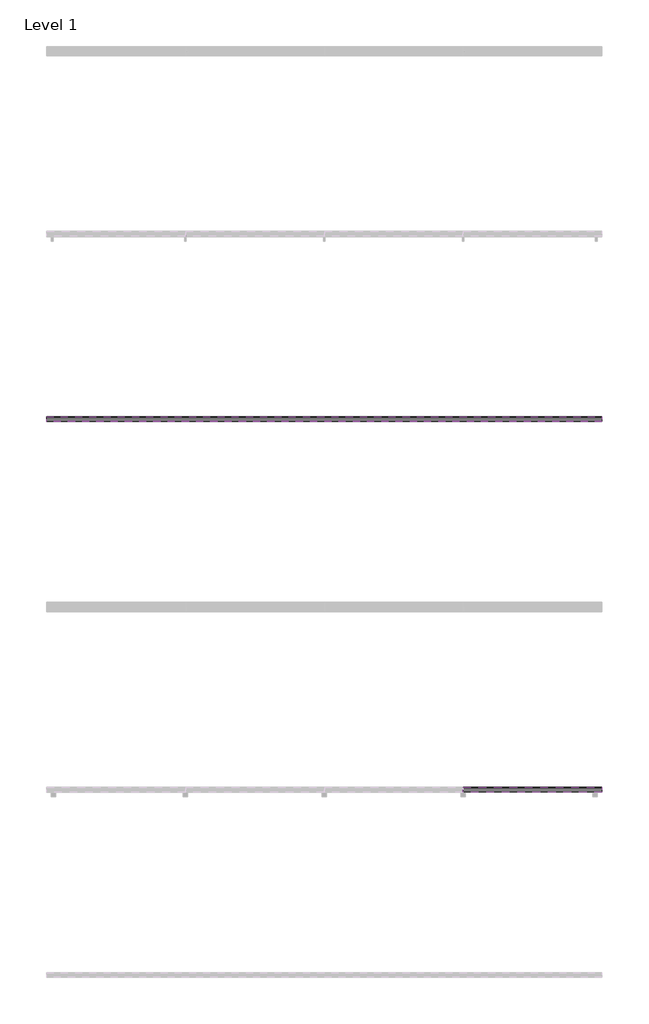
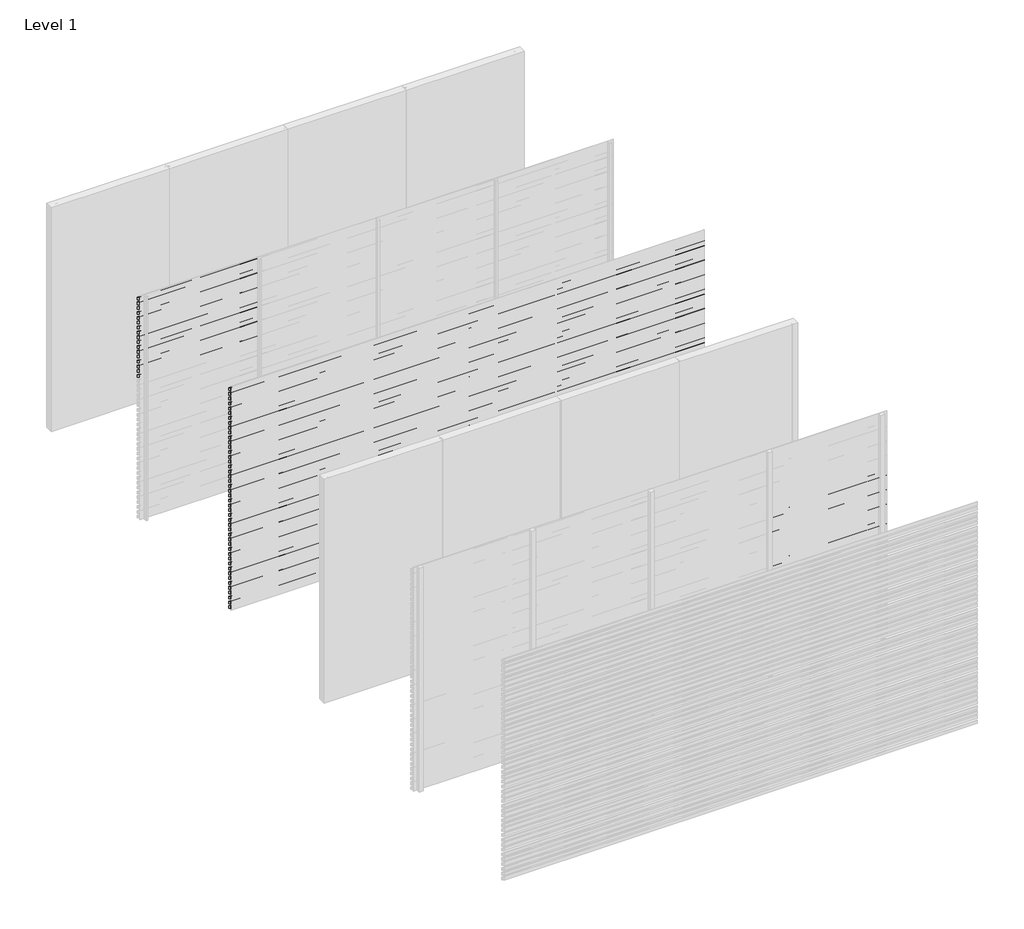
# One storey, part 6 of 10: 97 proxies.
"""IFC4 building model written with IfcOpenShell, lengths in millimetres."""

from ifc_helpers import new_model, si_unit, frame, origin, place, context, project, spatial, polyline, outline, extrude, element, save

model = new_model("IFC4")

# Units and contexts
model_context = context("Model", 3, world=origin())
ifc_project = project(units=[si_unit("LENGTHUNIT", "METRE", prefix="MILLI")], contexts=[model_context])

# Site, building, storey
site = spatial("IfcSite", under=ifc_project)
building = spatial("IfcBuilding", under=site)
storey = spatial("IfcBuildingStorey", under=building, Name="Level 1", Elevation=0.0)

# Proxies
placement = place(None, origin())
element("IfcBuildingElementProxy", 1, Name="Wall Sweeps", at=placement, inside=storey, context=model_context, shape_type="SweptSolid", body=[
    extrude(outline(polyline([(-5995.0, 2990.0), (-5995.0, 2981.2901632), (-5946.0, 2953.0), (-5946.0, 2918.0), (-5997.0, 2947.4448637), (-5997.0, 2990.0), (-5995.0, 2990.0)])), frame((0.0, 0.0, 0.0), z_axis=(1.0, 0.0, 0.0), x_axis=(0.0, 1.0, 0.0)), (0.0, 0.0, 1.0), 1500.0),
])
element("IfcBuildingElementProxy", 2, Name="Wall Sweeps", at=placement, inside=storey, context=model_context, shape_type="SweptSolid", body=[
    extrude(outline(polyline([(-5995.0, 2925.0), (-5995.0, 2916.2901632), (-5946.0, 2888.0), (-5946.0, 2853.0), (-5997.0, 2882.4448637), (-5997.0, 2925.0), (-5995.0, 2925.0)])), frame((0.0, 0.0, 0.0), z_axis=(1.0, 0.0, 0.0), x_axis=(0.0, 1.0, 0.0)), (0.0, 0.0, 1.0), 1500.0),
])
element("IfcBuildingElementProxy", 3, Name="Wall Sweeps", at=placement, inside=storey, context=model_context, shape_type="SweptSolid", body=[
    extrude(outline(polyline([(-5995.0, 2860.0), (-5995.0, 2851.2901632), (-5946.0, 2823.0), (-5946.0, 2788.0), (-5997.0, 2817.4448637), (-5997.0, 2860.0), (-5995.0, 2860.0)])), frame((0.0, 0.0, 0.0), z_axis=(1.0, 0.0, 0.0), x_axis=(0.0, 1.0, 0.0)), (0.0, 0.0, 1.0), 1500.0),
])
element("IfcBuildingElementProxy", 4, Name="Wall Sweeps", at=placement, inside=storey, context=model_context, shape_type="SweptSolid", body=[
    extrude(outline(polyline([(-5995.0, 2795.0), (-5995.0, 2786.2901632), (-5946.0, 2758.0), (-5946.0, 2723.0), (-5997.0, 2752.4448637), (-5997.0, 2795.0), (-5995.0, 2795.0)])), frame((0.0, 0.0, 0.0), z_axis=(1.0, 0.0, 0.0), x_axis=(0.0, 1.0, 0.0)), (0.0, 0.0, 1.0), 1500.0),
])
element("IfcBuildingElementProxy", 5, Name="Wall Sweeps", at=placement, inside=storey, context=model_context, shape_type="SweptSolid", body=[
    extrude(outline(polyline([(-5995.0, 2730.0), (-5995.0, 2721.2901632), (-5946.0, 2693.0), (-5946.0, 2658.0), (-5997.0, 2687.4448637), (-5997.0, 2730.0), (-5995.0, 2730.0)])), frame((0.0, 0.0, 0.0), z_axis=(1.0, 0.0, 0.0), x_axis=(0.0, 1.0, 0.0)), (0.0, 0.0, 1.0), 1500.0),
])
element("IfcBuildingElementProxy", 6, Name="Wall Sweeps", at=placement, inside=storey, context=model_context, shape_type="SweptSolid", body=[
    extrude(outline(polyline([(-5995.0, 2665.0), (-5995.0, 2656.2901632), (-5946.0, 2628.0), (-5946.0, 2593.0), (-5997.0, 2622.4448637), (-5997.0, 2665.0), (-5995.0, 2665.0)])), frame((0.0, 0.0, 0.0), z_axis=(1.0, 0.0, 0.0), x_axis=(0.0, 1.0, 0.0)), (0.0, 0.0, 1.0), 1500.0),
])
element("IfcBuildingElementProxy", 7, Name="Wall Sweeps", at=placement, inside=storey, context=model_context, shape_type="SweptSolid", body=[
    extrude(outline(polyline([(-5995.0, 2600.0), (-5995.0, 2591.2901632), (-5946.0, 2563.0), (-5946.0, 2528.0), (-5997.0, 2557.4448637), (-5997.0, 2600.0), (-5995.0, 2600.0)])), frame((0.0, 0.0, 0.0), z_axis=(1.0, 0.0, 0.0), x_axis=(0.0, 1.0, 0.0)), (0.0, 0.0, 1.0), 1500.0),
])
element("IfcBuildingElementProxy", 8, Name="Wall Sweeps", at=placement, inside=storey, context=model_context, shape_type="SweptSolid", body=[
    extrude(outline(polyline([(-5995.0, 2535.0), (-5995.0, 2526.2901632), (-5946.0, 2498.0), (-5946.0, 2463.0), (-5997.0, 2492.4448637), (-5997.0, 2535.0), (-5995.0, 2535.0)])), frame((0.0, 0.0, 0.0), z_axis=(1.0, 0.0, 0.0), x_axis=(0.0, 1.0, 0.0)), (0.0, 0.0, 1.0), 1500.0),
])
element("IfcBuildingElementProxy", 9, Name="Wall Sweeps", at=placement, inside=storey, context=model_context, shape_type="SweptSolid", body=[
    extrude(outline(polyline([(-5995.0, 2470.0), (-5995.0, 2461.2901632), (-5946.0, 2433.0), (-5946.0, 2398.0), (-5997.0, 2427.4448637), (-5997.0, 2470.0), (-5995.0, 2470.0)])), frame((0.0, 0.0, 0.0), z_axis=(1.0, 0.0, 0.0), x_axis=(0.0, 1.0, 0.0)), (0.0, 0.0, 1.0), 1500.0),
])
element("IfcBuildingElementProxy", 10, Name="Wall Sweeps", at=placement, inside=storey, context=model_context, shape_type="SweptSolid", body=[
    extrude(outline(polyline([(-5995.0, 2405.0), (-5995.0, 2396.2901632), (-5946.0, 2368.0), (-5946.0, 2333.0), (-5997.0, 2362.4448637), (-5997.0, 2405.0), (-5995.0, 2405.0)])), frame((0.0, 0.0, 0.0), z_axis=(1.0, 0.0, 0.0), x_axis=(0.0, 1.0, 0.0)), (0.0, 0.0, 1.0), 1500.0),
])
element("IfcBuildingElementProxy", 11, Name="Wall Sweeps", at=placement, inside=storey, context=model_context, shape_type="SweptSolid", body=[
    extrude(outline(polyline([(-5995.0, 2340.0), (-5995.0, 2331.2901632), (-5946.0, 2303.0), (-5946.0, 2268.0), (-5997.0, 2297.4448637), (-5997.0, 2340.0), (-5995.0, 2340.0)])), frame((0.0, 0.0, 0.0), z_axis=(1.0, 0.0, 0.0), x_axis=(0.0, 1.0, 0.0)), (0.0, 0.0, 1.0), 1500.0),
])
element("IfcBuildingElementProxy", 12, Name="Wall Sweeps", at=placement, inside=storey, context=model_context, shape_type="SweptSolid", body=[
    extrude(outline(polyline([(-5995.0, 2275.0), (-5995.0, 2266.2901632), (-5946.0, 2238.0), (-5946.0, 2203.0), (-5997.0, 2232.4448637), (-5997.0, 2275.0), (-5995.0, 2275.0)])), frame((0.0, 0.0, 0.0), z_axis=(1.0, 0.0, 0.0), x_axis=(0.0, 1.0, 0.0)), (0.0, 0.0, 1.0), 1500.0),
])
element("IfcBuildingElementProxy", 13, Name="Wall Sweeps", at=placement, inside=storey, context=model_context, shape_type="SweptSolid", body=[
    extrude(outline(polyline([(-5995.0, 2210.0), (-5995.0, 2201.2901632), (-5946.0, 2173.0), (-5946.0, 2138.0), (-5997.0, 2167.4448637), (-5997.0, 2210.0), (-5995.0, 2210.0)])), frame((0.0, 0.0, 0.0), z_axis=(1.0, 0.0, 0.0), x_axis=(0.0, 1.0, 0.0)), (0.0, 0.0, 1.0), 1500.0),
])
element("IfcBuildingElementProxy", 14, Name="Wall Sweeps", at=placement, inside=storey, context=model_context, shape_type="SweptSolid", body=[
    extrude(outline(polyline([(-5995.0, 2145.0), (-5995.0, 2136.2901632), (-5946.0, 2108.0), (-5946.0, 2073.0), (-5997.0, 2102.4448637), (-5997.0, 2145.0), (-5995.0, 2145.0)])), frame((0.0, 0.0, 0.0), z_axis=(1.0, 0.0, 0.0), x_axis=(0.0, 1.0, 0.0)), (0.0, 0.0, 1.0), 1500.0),
])
element("IfcBuildingElementProxy", 15, Name="Wall Sweeps", at=placement, inside=storey, context=model_context, shape_type="SweptSolid", body=[
    extrude(outline(polyline([(-5995.0, 2080.0), (-5995.0, 2071.2901632), (-5946.0, 2043.0), (-5946.0, 2008.0), (-5997.0, 2037.4448637), (-5997.0, 2080.0), (-5995.0, 2080.0)])), frame((0.0, 0.0, 0.0), z_axis=(1.0, 0.0, 0.0), x_axis=(0.0, 1.0, 0.0)), (0.0, 0.0, 1.0), 1500.0),
])
element("IfcBuildingElementProxy", 16, Name="Wall Sweeps", at=placement, inside=storey, context=model_context, shape_type="SweptSolid", body=[
    extrude(outline(polyline([(-5995.0, 2015.0), (-5995.0, 2006.2901632), (-5946.0, 1978.0), (-5946.0, 1943.0), (-5997.0, 1972.4448637), (-5997.0, 2015.0), (-5995.0, 2015.0)])), frame((0.0, 0.0, 0.0), z_axis=(1.0, 0.0, 0.0), x_axis=(0.0, 1.0, 0.0)), (0.0, 0.0, 1.0), 1500.0),
])
element("IfcBuildingElementProxy", 17, Name="Wall Sweeps", at=placement, inside=storey, context=model_context, shape_type="SweptSolid", body=[
    extrude(outline(polyline([(-5995.0, 1950.0), (-5995.0, 1941.2901632), (-5946.0, 1913.0), (-5946.0, 1878.0), (-5997.0, 1907.4448637), (-5997.0, 1950.0), (-5995.0, 1950.0)])), frame((0.0, 0.0, 0.0), z_axis=(1.0, 0.0, 0.0), x_axis=(0.0, 1.0, 0.0)), (0.0, 0.0, 1.0), 1500.0),
])
element("IfcBuildingElementProxy", 18, Name="Wall Sweeps", at=placement, inside=storey, context=model_context, shape_type="SweptSolid", body=[
    extrude(outline(polyline([(-7995.0, 2990.0), (-7995.0, 2981.2901632), (-7946.0, 2953.0), (-7946.0, 2918.0), (-7997.0, 2947.4448637), (-7997.0, 2990.0), (-7995.0, 2990.0)])), frame((0.0, 0.0, 0.0), z_axis=(1.0, 0.0, 0.0), x_axis=(0.0, 1.0, 0.0)), (0.0, 0.0, 1.0), 6000.0),
])
element("IfcBuildingElementProxy", 19, Name="Wall Sweeps", at=placement, inside=storey, context=model_context, shape_type="SweptSolid", body=[
    extrude(outline(polyline([(-7995.0, 2925.0), (-7995.0, 2916.2901632), (-7946.0, 2888.0), (-7946.0, 2853.0), (-7997.0, 2882.4448637), (-7997.0, 2925.0), (-7995.0, 2925.0)])), frame((0.0, 0.0, 0.0), z_axis=(1.0, 0.0, 0.0), x_axis=(0.0, 1.0, 0.0)), (0.0, 0.0, 1.0), 6000.0),
])
element("IfcBuildingElementProxy", 20, Name="Wall Sweeps", at=placement, inside=storey, context=model_context, shape_type="SweptSolid", body=[
    extrude(outline(polyline([(-7995.0, 2860.0), (-7995.0, 2851.2901632), (-7946.0, 2823.0), (-7946.0, 2788.0), (-7997.0, 2817.4448637), (-7997.0, 2860.0), (-7995.0, 2860.0)])), frame((0.0, 0.0, 0.0), z_axis=(1.0, 0.0, 0.0), x_axis=(0.0, 1.0, 0.0)), (0.0, 0.0, 1.0), 6000.0),
])
element("IfcBuildingElementProxy", 21, Name="Wall Sweeps", at=placement, inside=storey, context=model_context, shape_type="SweptSolid", body=[
    extrude(outline(polyline([(-7995.0, 2795.0), (-7995.0, 2786.2901632), (-7946.0, 2758.0), (-7946.0, 2723.0), (-7997.0, 2752.4448637), (-7997.0, 2795.0), (-7995.0, 2795.0)])), frame((0.0, 0.0, 0.0), z_axis=(1.0, 0.0, 0.0), x_axis=(0.0, 1.0, 0.0)), (0.0, 0.0, 1.0), 6000.0),
])
element("IfcBuildingElementProxy", 22, Name="Wall Sweeps", at=placement, inside=storey, context=model_context, shape_type="SweptSolid", body=[
    extrude(outline(polyline([(-7995.0, 2730.0), (-7995.0, 2721.2901632), (-7946.0, 2693.0), (-7946.0, 2658.0), (-7997.0, 2687.4448637), (-7997.0, 2730.0), (-7995.0, 2730.0)])), frame((0.0, 0.0, 0.0), z_axis=(1.0, 0.0, 0.0), x_axis=(0.0, 1.0, 0.0)), (0.0, 0.0, 1.0), 6000.0),
])
element("IfcBuildingElementProxy", 23, Name="Wall Sweeps", at=placement, inside=storey, context=model_context, shape_type="SweptSolid", body=[
    extrude(outline(polyline([(-7995.0, 2665.0), (-7995.0, 2656.2901632), (-7946.0, 2628.0), (-7946.0, 2593.0), (-7997.0, 2622.4448637), (-7997.0, 2665.0), (-7995.0, 2665.0)])), frame((0.0, 0.0, 0.0), z_axis=(1.0, 0.0, 0.0), x_axis=(0.0, 1.0, 0.0)), (0.0, 0.0, 1.0), 6000.0),
])
element("IfcBuildingElementProxy", 24, Name="Wall Sweeps", at=placement, inside=storey, context=model_context, shape_type="SweptSolid", body=[
    extrude(outline(polyline([(-7995.0, 2600.0), (-7995.0, 2591.2901632), (-7946.0, 2563.0), (-7946.0, 2528.0), (-7997.0, 2557.4448637), (-7997.0, 2600.0), (-7995.0, 2600.0)])), frame((0.0, 0.0, 0.0), z_axis=(1.0, 0.0, 0.0), x_axis=(0.0, 1.0, 0.0)), (0.0, 0.0, 1.0), 6000.0),
])
element("IfcBuildingElementProxy", 25, Name="Wall Sweeps", at=placement, inside=storey, context=model_context, shape_type="SweptSolid", body=[
    extrude(outline(polyline([(-7995.0, 2535.0), (-7995.0, 2526.2901632), (-7946.0, 2498.0), (-7946.0, 2463.0), (-7997.0, 2492.4448637), (-7997.0, 2535.0), (-7995.0, 2535.0)])), frame((0.0, 0.0, 0.0), z_axis=(1.0, 0.0, 0.0), x_axis=(0.0, 1.0, 0.0)), (0.0, 0.0, 1.0), 6000.0),
])
element("IfcBuildingElementProxy", 26, Name="Wall Sweeps", at=placement, inside=storey, context=model_context, shape_type="SweptSolid", body=[
    extrude(outline(polyline([(-7995.0, 2470.0), (-7995.0, 2461.2901632), (-7946.0, 2433.0), (-7946.0, 2398.0), (-7997.0, 2427.4448637), (-7997.0, 2470.0), (-7995.0, 2470.0)])), frame((0.0, 0.0, 0.0), z_axis=(1.0, 0.0, 0.0), x_axis=(0.0, 1.0, 0.0)), (0.0, 0.0, 1.0), 6000.0),
])
element("IfcBuildingElementProxy", 27, Name="Wall Sweeps", at=placement, inside=storey, context=model_context, shape_type="SweptSolid", body=[
    extrude(outline(polyline([(-7995.0, 2405.0), (-7995.0, 2396.2901632), (-7946.0, 2368.0), (-7946.0, 2333.0), (-7997.0, 2362.4448637), (-7997.0, 2405.0), (-7995.0, 2405.0)])), frame((0.0, 0.0, 0.0), z_axis=(1.0, 0.0, 0.0), x_axis=(0.0, 1.0, 0.0)), (0.0, 0.0, 1.0), 6000.0),
])
element("IfcBuildingElementProxy", 28, Name="Wall Sweeps", at=placement, inside=storey, context=model_context, shape_type="SweptSolid", body=[
    extrude(outline(polyline([(-7995.0, 2340.0), (-7995.0, 2331.2901632), (-7946.0, 2303.0), (-7946.0, 2268.0), (-7997.0, 2297.4448637), (-7997.0, 2340.0), (-7995.0, 2340.0)])), frame((0.0, 0.0, 0.0), z_axis=(1.0, 0.0, 0.0), x_axis=(0.0, 1.0, 0.0)), (0.0, 0.0, 1.0), 6000.0),
])
element("IfcBuildingElementProxy", 29, Name="Wall Sweeps", at=placement, inside=storey, context=model_context, shape_type="SweptSolid", body=[
    extrude(outline(polyline([(-7995.0, 2275.0), (-7995.0, 2266.2901632), (-7946.0, 2238.0), (-7946.0, 2203.0), (-7997.0, 2232.4448637), (-7997.0, 2275.0), (-7995.0, 2275.0)])), frame((0.0, 0.0, 0.0), z_axis=(1.0, 0.0, 0.0), x_axis=(0.0, 1.0, 0.0)), (0.0, 0.0, 1.0), 6000.0),
])
element("IfcBuildingElementProxy", 30, Name="Wall Sweeps", at=placement, inside=storey, context=model_context, shape_type="SweptSolid", body=[
    extrude(outline(polyline([(-7995.0, 2210.0), (-7995.0, 2201.2901632), (-7946.0, 2173.0), (-7946.0, 2138.0), (-7997.0, 2167.4448637), (-7997.0, 2210.0), (-7995.0, 2210.0)])), frame((0.0, 0.0, 0.0), z_axis=(1.0, 0.0, 0.0), x_axis=(0.0, 1.0, 0.0)), (0.0, 0.0, 1.0), 6000.0),
])
element("IfcBuildingElementProxy", 31, Name="Wall Sweeps", at=placement, inside=storey, context=model_context, shape_type="SweptSolid", body=[
    extrude(outline(polyline([(-7995.0, 2145.0), (-7995.0, 2136.2901632), (-7946.0, 2108.0), (-7946.0, 2073.0), (-7997.0, 2102.4448637), (-7997.0, 2145.0), (-7995.0, 2145.0)])), frame((0.0, 0.0, 0.0), z_axis=(1.0, 0.0, 0.0), x_axis=(0.0, 1.0, 0.0)), (0.0, 0.0, 1.0), 6000.0),
])
element("IfcBuildingElementProxy", 32, Name="Wall Sweeps", at=placement, inside=storey, context=model_context, shape_type="SweptSolid", body=[
    extrude(outline(polyline([(-7995.0, 2080.0), (-7995.0, 2071.2901632), (-7946.0, 2043.0), (-7946.0, 2008.0), (-7997.0, 2037.4448637), (-7997.0, 2080.0), (-7995.0, 2080.0)])), frame((0.0, 0.0, 0.0), z_axis=(1.0, 0.0, 0.0), x_axis=(0.0, 1.0, 0.0)), (0.0, 0.0, 1.0), 6000.0),
])
element("IfcBuildingElementProxy", 33, Name="Wall Sweeps", at=placement, inside=storey, context=model_context, shape_type="SweptSolid", body=[
    extrude(outline(polyline([(-7995.0, 2015.0), (-7995.0, 2006.2901632), (-7946.0, 1978.0), (-7946.0, 1943.0), (-7997.0, 1972.4448637), (-7997.0, 2015.0), (-7995.0, 2015.0)])), frame((0.0, 0.0, 0.0), z_axis=(1.0, 0.0, 0.0), x_axis=(0.0, 1.0, 0.0)), (0.0, 0.0, 1.0), 6000.0),
])
element("IfcBuildingElementProxy", 34, Name="Wall Sweeps", at=placement, inside=storey, context=model_context, shape_type="SweptSolid", body=[
    extrude(outline(polyline([(-7995.0, 1950.0), (-7995.0, 1941.2901632), (-7946.0, 1913.0), (-7946.0, 1878.0), (-7997.0, 1907.4448637), (-7997.0, 1950.0), (-7995.0, 1950.0)])), frame((0.0, 0.0, 0.0), z_axis=(1.0, 0.0, 0.0), x_axis=(0.0, 1.0, 0.0)), (0.0, 0.0, 1.0), 6000.0),
])
element("IfcBuildingElementProxy", 35, Name="Wall Sweeps", at=placement, inside=storey, context=model_context, shape_type="SweptSolid", body=[
    extrude(outline(polyline([(-7995.0, 1885.0), (-7995.0, 1876.2901632), (-7946.0, 1848.0), (-7946.0, 1813.0), (-7997.0, 1842.4448637), (-7997.0, 1885.0), (-7995.0, 1885.0)])), frame((0.0, 0.0, 0.0), z_axis=(1.0, 0.0, 0.0), x_axis=(0.0, 1.0, 0.0)), (0.0, 0.0, 1.0), 6000.0),
])
element("IfcBuildingElementProxy", 36, Name="Wall Sweeps", at=placement, inside=storey, context=model_context, shape_type="SweptSolid", body=[
    extrude(outline(polyline([(-7995.0, 1820.0), (-7995.0, 1811.2901632), (-7946.0, 1783.0), (-7946.0, 1748.0), (-7997.0, 1777.4448637), (-7997.0, 1820.0), (-7995.0, 1820.0)])), frame((0.0, 0.0, 0.0), z_axis=(1.0, 0.0, 0.0), x_axis=(0.0, 1.0, 0.0)), (0.0, 0.0, 1.0), 6000.0),
])
element("IfcBuildingElementProxy", 37, Name="Wall Sweeps", at=placement, inside=storey, context=model_context, shape_type="SweptSolid", body=[
    extrude(outline(polyline([(-7995.0, 1755.0), (-7995.0, 1746.2901632), (-7946.0, 1718.0), (-7946.0, 1683.0), (-7997.0, 1712.4448637), (-7997.0, 1755.0), (-7995.0, 1755.0)])), frame((0.0, 0.0, 0.0), z_axis=(1.0, 0.0, 0.0), x_axis=(0.0, 1.0, 0.0)), (0.0, 0.0, 1.0), 6000.0),
])
element("IfcBuildingElementProxy", 38, Name="Wall Sweeps", at=placement, inside=storey, context=model_context, shape_type="SweptSolid", body=[
    extrude(outline(polyline([(-7995.0, 1690.0), (-7995.0, 1681.2901632), (-7946.0, 1653.0), (-7946.0, 1618.0), (-7997.0, 1647.4448637), (-7997.0, 1690.0), (-7995.0, 1690.0)])), frame((0.0, 0.0, 0.0), z_axis=(1.0, 0.0, 0.0), x_axis=(0.0, 1.0, 0.0)), (0.0, 0.0, 1.0), 6000.0),
])
element("IfcBuildingElementProxy", 39, Name="Wall Sweeps", at=placement, inside=storey, context=model_context, shape_type="SweptSolid", body=[
    extrude(outline(polyline([(-7995.0, 1625.0), (-7995.0, 1616.2901632), (-7946.0, 1588.0), (-7946.0, 1553.0), (-7997.0, 1582.4448637), (-7997.0, 1625.0), (-7995.0, 1625.0)])), frame((0.0, 0.0, 0.0), z_axis=(1.0, 0.0, 0.0), x_axis=(0.0, 1.0, 0.0)), (0.0, 0.0, 1.0), 6000.0),
])
element("IfcBuildingElementProxy", 40, Name="Wall Sweeps", at=placement, inside=storey, context=model_context, shape_type="SweptSolid", body=[
    extrude(outline(polyline([(-7995.0, 1560.0), (-7995.0, 1551.2901632), (-7946.0, 1523.0), (-7946.0, 1488.0), (-7997.0, 1517.4448637), (-7997.0, 1560.0), (-7995.0, 1560.0)])), frame((0.0, 0.0, 0.0), z_axis=(1.0, 0.0, 0.0), x_axis=(0.0, 1.0, 0.0)), (0.0, 0.0, 1.0), 6000.0),
])
element("IfcBuildingElementProxy", 41, Name="Wall Sweeps", at=placement, inside=storey, context=model_context, shape_type="SweptSolid", body=[
    extrude(outline(polyline([(-7995.0, 1495.0), (-7995.0, 1486.2901632), (-7946.0, 1458.0), (-7946.0, 1423.0), (-7997.0, 1452.4448637), (-7997.0, 1495.0), (-7995.0, 1495.0)])), frame((0.0, 0.0, 0.0), z_axis=(1.0, 0.0, 0.0), x_axis=(0.0, 1.0, 0.0)), (0.0, 0.0, 1.0), 6000.0),
])
element("IfcBuildingElementProxy", 42, Name="Wall Sweeps", at=placement, inside=storey, context=model_context, shape_type="SweptSolid", body=[
    extrude(outline(polyline([(-7995.0, 1430.0), (-7995.0, 1421.2901632), (-7946.0, 1393.0), (-7946.0, 1358.0), (-7997.0, 1387.4448637), (-7997.0, 1430.0), (-7995.0, 1430.0)])), frame((0.0, 0.0, 0.0), z_axis=(1.0, 0.0, 0.0), x_axis=(0.0, 1.0, 0.0)), (0.0, 0.0, 1.0), 6000.0),
])
element("IfcBuildingElementProxy", 43, Name="Wall Sweeps", at=placement, inside=storey, context=model_context, shape_type="SweptSolid", body=[
    extrude(outline(polyline([(-7995.0, 1365.0), (-7995.0, 1356.2901632), (-7946.0, 1328.0), (-7946.0, 1293.0), (-7997.0, 1322.4448637), (-7997.0, 1365.0), (-7995.0, 1365.0)])), frame((0.0, 0.0, 0.0), z_axis=(1.0, 0.0, 0.0), x_axis=(0.0, 1.0, 0.0)), (0.0, 0.0, 1.0), 6000.0),
])
element("IfcBuildingElementProxy", 44, Name="Wall Sweeps", at=placement, inside=storey, context=model_context, shape_type="SweptSolid", body=[
    extrude(outline(polyline([(-7995.0, 1300.0), (-7995.0, 1291.2901632), (-7946.0, 1263.0), (-7946.0, 1228.0), (-7997.0, 1257.4448637), (-7997.0, 1300.0), (-7995.0, 1300.0)])), frame((0.0, 0.0, 0.0), z_axis=(1.0, 0.0, 0.0), x_axis=(0.0, 1.0, 0.0)), (0.0, 0.0, 1.0), 6000.0),
])
element("IfcBuildingElementProxy", 45, Name="Wall Sweeps", at=placement, inside=storey, context=model_context, shape_type="SweptSolid", body=[
    extrude(outline(polyline([(-7995.0, 1235.0), (-7995.0, 1226.2901632), (-7946.0, 1198.0), (-7946.0, 1163.0), (-7997.0, 1192.4448637), (-7997.0, 1235.0), (-7995.0, 1235.0)])), frame((0.0, 0.0, 0.0), z_axis=(1.0, 0.0, 0.0), x_axis=(0.0, 1.0, 0.0)), (0.0, 0.0, 1.0), 6000.0),
])
element("IfcBuildingElementProxy", 46, Name="Wall Sweeps", at=placement, inside=storey, context=model_context, shape_type="SweptSolid", body=[
    extrude(outline(polyline([(-7995.0, 1170.0), (-7995.0, 1161.2901632), (-7946.0, 1133.0), (-7946.0, 1098.0), (-7997.0, 1127.4448637), (-7997.0, 1170.0), (-7995.0, 1170.0)])), frame((0.0, 0.0, 0.0), z_axis=(1.0, 0.0, 0.0), x_axis=(0.0, 1.0, 0.0)), (0.0, 0.0, 1.0), 6000.0),
])
element("IfcBuildingElementProxy", 47, Name="Wall Sweeps", at=placement, inside=storey, context=model_context, shape_type="SweptSolid", body=[
    extrude(outline(polyline([(-7995.0, 1105.0), (-7995.0, 1096.2901632), (-7946.0, 1068.0), (-7946.0, 1033.0), (-7997.0, 1062.4448637), (-7997.0, 1105.0), (-7995.0, 1105.0)])), frame((0.0, 0.0, 0.0), z_axis=(1.0, 0.0, 0.0), x_axis=(0.0, 1.0, 0.0)), (0.0, 0.0, 1.0), 6000.0),
])
element("IfcBuildingElementProxy", 48, Name="Wall Sweeps", at=placement, inside=storey, context=model_context, shape_type="SweptSolid", body=[
    extrude(outline(polyline([(-7995.0, 1040.0), (-7995.0, 1031.2901632), (-7946.0, 1003.0), (-7946.0, 968.0), (-7997.0, 997.4448637), (-7997.0, 1040.0), (-7995.0, 1040.0)])), frame((0.0, 0.0, 0.0), z_axis=(1.0, 0.0, 0.0), x_axis=(0.0, 1.0, 0.0)), (0.0, 0.0, 1.0), 6000.0),
])
element("IfcBuildingElementProxy", 49, Name="Wall Sweeps", at=placement, inside=storey, context=model_context, shape_type="SweptSolid", body=[
    extrude(outline(polyline([(-7995.0, 975.0), (-7995.0, 966.2901632), (-7946.0, 938.0), (-7946.0, 903.0), (-7997.0, 932.4448637), (-7997.0, 975.0), (-7995.0, 975.0)])), frame((0.0, 0.0, 0.0), z_axis=(1.0, 0.0, 0.0), x_axis=(0.0, 1.0, 0.0)), (0.0, 0.0, 1.0), 6000.0),
])
element("IfcBuildingElementProxy", 50, Name="Wall Sweeps", at=placement, inside=storey, context=model_context, shape_type="SweptSolid", body=[
    extrude(outline(polyline([(-7995.0, 910.0), (-7995.0, 901.2901632), (-7946.0, 873.0), (-7946.0, 838.0), (-7997.0, 867.4448637), (-7997.0, 910.0), (-7995.0, 910.0)])), frame((0.0, 0.0, 0.0), z_axis=(1.0, 0.0, 0.0), x_axis=(0.0, 1.0, 0.0)), (0.0, 0.0, 1.0), 6000.0),
])
element("IfcBuildingElementProxy", 51, Name="Wall Sweeps", at=placement, inside=storey, context=model_context, shape_type="SweptSolid", body=[
    extrude(outline(polyline([(-7995.0, 845.0), (-7995.0, 836.2901632), (-7946.0, 808.0), (-7946.0, 773.0), (-7997.0, 802.4448637), (-7997.0, 845.0), (-7995.0, 845.0)])), frame((0.0, 0.0, 0.0), z_axis=(1.0, 0.0, 0.0), x_axis=(0.0, 1.0, 0.0)), (0.0, 0.0, 1.0), 6000.0),
])
element("IfcBuildingElementProxy", 52, Name="Wall Sweeps", at=placement, inside=storey, context=model_context, shape_type="SweptSolid", body=[
    extrude(outline(polyline([(-7995.0, 780.0), (-7995.0, 771.2901632), (-7946.0, 743.0), (-7946.0, 708.0), (-7997.0, 737.4448637), (-7997.0, 780.0), (-7995.0, 780.0)])), frame((0.0, 0.0, 0.0), z_axis=(1.0, 0.0, 0.0), x_axis=(0.0, 1.0, 0.0)), (0.0, 0.0, 1.0), 6000.0),
])
element("IfcBuildingElementProxy", 53, Name="Wall Sweeps", at=placement, inside=storey, context=model_context, shape_type="SweptSolid", body=[
    extrude(outline(polyline([(-7995.0, 715.0), (-7995.0, 706.2901632), (-7946.0, 678.0), (-7946.0, 643.0), (-7997.0, 672.4448637), (-7997.0, 715.0), (-7995.0, 715.0)])), frame((0.0, 0.0, 0.0), z_axis=(1.0, 0.0, 0.0), x_axis=(0.0, 1.0, 0.0)), (0.0, 0.0, 1.0), 6000.0),
])
element("IfcBuildingElementProxy", 54, Name="Wall Sweeps", at=placement, inside=storey, context=model_context, shape_type="SweptSolid", body=[
    extrude(outline(polyline([(-7995.0, 650.0), (-7995.0, 641.2901632), (-7946.0, 613.0), (-7946.0, 578.0), (-7997.0, 607.4448637), (-7997.0, 650.0), (-7995.0, 650.0)])), frame((0.0, 0.0, 0.0), z_axis=(1.0, 0.0, 0.0), x_axis=(0.0, 1.0, 0.0)), (0.0, 0.0, 1.0), 6000.0),
])
element("IfcBuildingElementProxy", 55, Name="Wall Sweeps", at=placement, inside=storey, context=model_context, shape_type="SweptSolid", body=[
    extrude(outline(polyline([(-7995.0, 585.0), (-7995.0, 576.2901632), (-7946.0, 548.0), (-7946.0, 513.0), (-7997.0, 542.4448637), (-7997.0, 585.0), (-7995.0, 585.0)])), frame((0.0, 0.0, 0.0), z_axis=(1.0, 0.0, 0.0), x_axis=(0.0, 1.0, 0.0)), (0.0, 0.0, 1.0), 6000.0),
])
element("IfcBuildingElementProxy", 56, Name="Wall Sweeps", at=placement, inside=storey, context=model_context, shape_type="SweptSolid", body=[
    extrude(outline(polyline([(-7995.0, 520.0), (-7995.0, 511.2901632), (-7946.0, 483.0), (-7946.0, 448.0), (-7997.0, 477.4448637), (-7997.0, 520.0), (-7995.0, 520.0)])), frame((0.0, 0.0, 0.0), z_axis=(1.0, 0.0, 0.0), x_axis=(0.0, 1.0, 0.0)), (0.0, 0.0, 1.0), 6000.0),
])
element("IfcBuildingElementProxy", 57, Name="Wall Sweeps", at=placement, inside=storey, context=model_context, shape_type="SweptSolid", body=[
    extrude(outline(polyline([(-7995.0, 455.0), (-7995.0, 446.2901632), (-7946.0, 418.0), (-7946.0, 383.0), (-7997.0, 412.4448637), (-7997.0, 455.0), (-7995.0, 455.0)])), frame((0.0, 0.0, 0.0), z_axis=(1.0, 0.0, 0.0), x_axis=(0.0, 1.0, 0.0)), (0.0, 0.0, 1.0), 6000.0),
])
element("IfcBuildingElementProxy", 58, Name="Wall Sweeps", at=placement, inside=storey, context=model_context, shape_type="SweptSolid", body=[
    extrude(outline(polyline([(-7995.0, 390.0), (-7995.0, 381.2901632), (-7946.0, 353.0), (-7946.0, 318.0), (-7997.0, 347.4448637), (-7997.0, 390.0), (-7995.0, 390.0)])), frame((0.0, 0.0, 0.0), z_axis=(1.0, 0.0, 0.0), x_axis=(0.0, 1.0, 0.0)), (0.0, 0.0, 1.0), 6000.0),
])
element("IfcBuildingElementProxy", 59, Name="Wall Sweeps", at=placement, inside=storey, context=model_context, shape_type="SweptSolid", body=[
    extrude(outline(polyline([(-7995.0, 325.0), (-7995.0, 316.2901632), (-7946.0, 288.0), (-7946.0, 253.0), (-7997.0, 282.4448637), (-7997.0, 325.0), (-7995.0, 325.0)])), frame((0.0, 0.0, 0.0), z_axis=(1.0, 0.0, 0.0), x_axis=(0.0, 1.0, 0.0)), (0.0, 0.0, 1.0), 6000.0),
])
element("IfcBuildingElementProxy", 60, Name="Wall Sweeps", at=placement, inside=storey, context=model_context, shape_type="SweptSolid", body=[
    extrude(outline(polyline([(-7995.0, 260.0), (-7995.0, 251.2901632), (-7946.0, 223.0), (-7946.0, 188.0), (-7997.0, 217.4448637), (-7997.0, 260.0), (-7995.0, 260.0)])), frame((0.0, 0.0, 0.0), z_axis=(1.0, 0.0, 0.0), x_axis=(0.0, 1.0, 0.0)), (0.0, 0.0, 1.0), 6000.0),
])
element("IfcBuildingElementProxy", 61, Name="Wall Sweeps", at=placement, inside=storey, context=model_context, shape_type="SweptSolid", body=[
    extrude(outline(polyline([(-7995.0, 195.0), (-7995.0, 186.2901632), (-7946.0, 158.0), (-7946.0, 123.0), (-7997.0, 152.4448637), (-7997.0, 195.0), (-7995.0, 195.0)])), frame((0.0, 0.0, 0.0), z_axis=(1.0, 0.0, 0.0), x_axis=(0.0, 1.0, 0.0)), (0.0, 0.0, 1.0), 6000.0),
])
element("IfcBuildingElementProxy", 62, Name="Wall Sweeps", at=placement, inside=storey, context=model_context, shape_type="SweptSolid", body=[
    extrude(outline(polyline([(-7995.0, 130.0), (-7995.0, 121.2901632), (-7946.0, 93.0), (-7946.0, 58.0), (-7997.0, 87.4448637), (-7997.0, 130.0), (-7995.0, 130.0)])), frame((0.0, 0.0, 0.0), z_axis=(1.0, 0.0, 0.0), x_axis=(0.0, 1.0, 0.0)), (0.0, 0.0, 1.0), 6000.0),
])
element("IfcBuildingElementProxy", 63, Name="Wall Sweeps", at=placement, inside=storey, context=model_context, shape_type="SweptSolid", body=[
    extrude(outline(polyline([(-7995.0, 65.0), (-7995.0, 56.2901632), (-7946.0, 28.0), (-7946.0, -7.0), (-7997.0, 22.4448637), (-7997.0, 65.0), (-7995.0, 65.0)])), frame((0.0, 0.0, 0.0), z_axis=(1.0, 0.0, 0.0), x_axis=(0.0, 1.0, 0.0)), (0.0, 0.0, 1.0), 6000.0),
])
element("IfcBuildingElementProxy", 64, Name="Wall Sweeps", at=placement, inside=storey, context=model_context, shape_type="SweptSolid", body=[
    extrude(outline(polyline([(-11995.0, 2210.0), (-11995.0, 2201.2901632), (-11946.0, 2173.0), (-11946.0, 2138.0), (-11997.0, 2167.4448637), (-11997.0, 2210.0), (-11995.0, 2210.0)])), frame((4500.0, 0.0, 0.0), z_axis=(1.0, 0.0, 0.0), x_axis=(0.0, 1.0, 0.0)), (0.0, 0.0, 1.0), 1500.0),
])
element("IfcBuildingElementProxy", 65, Name="Wall Sweeps", at=placement, inside=storey, context=model_context, shape_type="SweptSolid", body=[
    extrude(outline(polyline([(-11995.0, 2145.0), (-11995.0, 2136.2901632), (-11946.0, 2108.0), (-11946.0, 2073.0), (-11997.0, 2102.4448637), (-11997.0, 2145.0), (-11995.0, 2145.0)])), frame((4500.0, 0.0, 0.0), z_axis=(1.0, 0.0, 0.0), x_axis=(0.0, 1.0, 0.0)), (0.0, 0.0, 1.0), 1500.0),
])
element("IfcBuildingElementProxy", 66, Name="Wall Sweeps", at=placement, inside=storey, context=model_context, shape_type="SweptSolid", body=[
    extrude(outline(polyline([(-11995.0, 2080.0), (-11995.0, 2071.2901632), (-11946.0, 2043.0), (-11946.0, 2008.0), (-11997.0, 2037.4448637), (-11997.0, 2080.0), (-11995.0, 2080.0)])), frame((4500.0, 0.0, 0.0), z_axis=(1.0, 0.0, 0.0), x_axis=(0.0, 1.0, 0.0)), (0.0, 0.0, 1.0), 1500.0),
])
element("IfcBuildingElementProxy", 67, Name="Wall Sweeps", at=placement, inside=storey, context=model_context, shape_type="SweptSolid", body=[
    extrude(outline(polyline([(-11995.0, 2015.0), (-11995.0, 2006.2901632), (-11946.0, 1978.0), (-11946.0, 1943.0), (-11997.0, 1972.4448637), (-11997.0, 2015.0), (-11995.0, 2015.0)])), frame((4500.0, 0.0, 0.0), z_axis=(1.0, 0.0, 0.0), x_axis=(0.0, 1.0, 0.0)), (0.0, 0.0, 1.0), 1500.0),
])
element("IfcBuildingElementProxy", 68, Name="Wall Sweeps", at=placement, inside=storey, context=model_context, shape_type="SweptSolid", body=[
    extrude(outline(polyline([(-11995.0, 1950.0), (-11995.0, 1941.2901632), (-11946.0, 1913.0), (-11946.0, 1878.0), (-11997.0, 1907.4448637), (-11997.0, 1950.0), (-11995.0, 1950.0)])), frame((4500.0, 0.0, 0.0), z_axis=(1.0, 0.0, 0.0), x_axis=(0.0, 1.0, 0.0)), (0.0, 0.0, 1.0), 1500.0),
])
element("IfcBuildingElementProxy", 69, Name="Wall Sweeps", at=placement, inside=storey, context=model_context, shape_type="SweptSolid", body=[
    extrude(outline(polyline([(-11995.0, 1885.0), (-11995.0, 1876.2901632), (-11946.0, 1848.0), (-11946.0, 1813.0), (-11997.0, 1842.4448637), (-11997.0, 1885.0), (-11995.0, 1885.0)])), frame((4500.0, 0.0, 0.0), z_axis=(1.0, 0.0, 0.0), x_axis=(0.0, 1.0, 0.0)), (0.0, 0.0, 1.0), 1500.0),
])
element("IfcBuildingElementProxy", 70, Name="Wall Sweeps", at=placement, inside=storey, context=model_context, shape_type="SweptSolid", body=[
    extrude(outline(polyline([(-11995.0, 1820.0), (-11995.0, 1811.2901632), (-11946.0, 1783.0), (-11946.0, 1748.0), (-11997.0, 1777.4448637), (-11997.0, 1820.0), (-11995.0, 1820.0)])), frame((4500.0, 0.0, 0.0), z_axis=(1.0, 0.0, 0.0), x_axis=(0.0, 1.0, 0.0)), (0.0, 0.0, 1.0), 1500.0),
])
element("IfcBuildingElementProxy", 71, Name="Wall Sweeps", at=placement, inside=storey, context=model_context, shape_type="SweptSolid", body=[
    extrude(outline(polyline([(-11995.0, 1755.0), (-11995.0, 1746.2901632), (-11946.0, 1718.0), (-11946.0, 1683.0), (-11997.0, 1712.4448637), (-11997.0, 1755.0), (-11995.0, 1755.0)])), frame((4500.0, 0.0, 0.0), z_axis=(1.0, 0.0, 0.0), x_axis=(0.0, 1.0, 0.0)), (0.0, 0.0, 1.0), 1500.0),
])
element("IfcBuildingElementProxy", 72, Name="Wall Sweeps", at=placement, inside=storey, context=model_context, shape_type="SweptSolid", body=[
    extrude(outline(polyline([(-11995.0, 1690.0), (-11995.0, 1681.2901632), (-11946.0, 1653.0), (-11946.0, 1618.0), (-11997.0, 1647.4448637), (-11997.0, 1690.0), (-11995.0, 1690.0)])), frame((4500.0, 0.0, 0.0), z_axis=(1.0, 0.0, 0.0), x_axis=(0.0, 1.0, 0.0)), (0.0, 0.0, 1.0), 1500.0),
])
element("IfcBuildingElementProxy", 73, Name="Wall Sweeps", at=placement, inside=storey, context=model_context, shape_type="SweptSolid", body=[
    extrude(outline(polyline([(-11995.0, 1625.0), (-11995.0, 1616.2901632), (-11946.0, 1588.0), (-11946.0, 1553.0), (-11997.0, 1582.4448637), (-11997.0, 1625.0), (-11995.0, 1625.0)])), frame((4500.0, 0.0, 0.0), z_axis=(1.0, 0.0, 0.0), x_axis=(0.0, 1.0, 0.0)), (0.0, 0.0, 1.0), 1500.0),
])
element("IfcBuildingElementProxy", 74, Name="Wall Sweeps", at=placement, inside=storey, context=model_context, shape_type="SweptSolid", body=[
    extrude(outline(polyline([(-11995.0, 1560.0), (-11995.0, 1551.2901632), (-11946.0, 1523.0), (-11946.0, 1488.0), (-11997.0, 1517.4448637), (-11997.0, 1560.0), (-11995.0, 1560.0)])), frame((4500.0, 0.0, 0.0), z_axis=(1.0, 0.0, 0.0), x_axis=(0.0, 1.0, 0.0)), (0.0, 0.0, 1.0), 1500.0),
])
element("IfcBuildingElementProxy", 75, Name="Wall Sweeps", at=placement, inside=storey, context=model_context, shape_type="SweptSolid", body=[
    extrude(outline(polyline([(-11995.0, 1495.0), (-11995.0, 1486.2901632), (-11946.0, 1458.0), (-11946.0, 1423.0), (-11997.0, 1452.4448637), (-11997.0, 1495.0), (-11995.0, 1495.0)])), frame((4500.0, 0.0, 0.0), z_axis=(1.0, 0.0, 0.0), x_axis=(0.0, 1.0, 0.0)), (0.0, 0.0, 1.0), 1500.0),
])
element("IfcBuildingElementProxy", 76, Name="Wall Sweeps", at=placement, inside=storey, context=model_context, shape_type="SweptSolid", body=[
    extrude(outline(polyline([(-11995.0, 1430.0), (-11995.0, 1421.2901632), (-11946.0, 1393.0), (-11946.0, 1358.0), (-11997.0, 1387.4448637), (-11997.0, 1430.0), (-11995.0, 1430.0)])), frame((4500.0, 0.0, 0.0), z_axis=(1.0, 0.0, 0.0), x_axis=(0.0, 1.0, 0.0)), (0.0, 0.0, 1.0), 1500.0),
])
element("IfcBuildingElementProxy", 77, Name="Wall Sweeps", at=placement, inside=storey, context=model_context, shape_type="SweptSolid", body=[
    extrude(outline(polyline([(-11995.0, 1365.0), (-11995.0, 1356.2901632), (-11946.0, 1328.0), (-11946.0, 1293.0), (-11997.0, 1322.4448637), (-11997.0, 1365.0), (-11995.0, 1365.0)])), frame((4500.0, 0.0, 0.0), z_axis=(1.0, 0.0, 0.0), x_axis=(0.0, 1.0, 0.0)), (0.0, 0.0, 1.0), 1500.0),
])
element("IfcBuildingElementProxy", 78, Name="Wall Sweeps", at=placement, inside=storey, context=model_context, shape_type="SweptSolid", body=[
    extrude(outline(polyline([(-11995.0, 1300.0), (-11995.0, 1291.2901632), (-11946.0, 1263.0), (-11946.0, 1228.0), (-11997.0, 1257.4448637), (-11997.0, 1300.0), (-11995.0, 1300.0)])), frame((4500.0, 0.0, 0.0), z_axis=(1.0, 0.0, 0.0), x_axis=(0.0, 1.0, 0.0)), (0.0, 0.0, 1.0), 1500.0),
])
element("IfcBuildingElementProxy", 79, Name="Wall Sweeps", at=placement, inside=storey, context=model_context, shape_type="SweptSolid", body=[
    extrude(outline(polyline([(-11995.0, 1235.0), (-11995.0, 1226.2901632), (-11946.0, 1198.0), (-11946.0, 1163.0), (-11997.0, 1192.4448637), (-11997.0, 1235.0), (-11995.0, 1235.0)])), frame((4500.0, 0.0, 0.0), z_axis=(1.0, 0.0, 0.0), x_axis=(0.0, 1.0, 0.0)), (0.0, 0.0, 1.0), 1500.0),
])
element("IfcBuildingElementProxy", 80, Name="Wall Sweeps", at=placement, inside=storey, context=model_context, shape_type="SweptSolid", body=[
    extrude(outline(polyline([(-11995.0, 1170.0), (-11995.0, 1161.2901632), (-11946.0, 1133.0), (-11946.0, 1098.0), (-11997.0, 1127.4448637), (-11997.0, 1170.0), (-11995.0, 1170.0)])), frame((4500.0, 0.0, 0.0), z_axis=(1.0, 0.0, 0.0), x_axis=(0.0, 1.0, 0.0)), (0.0, 0.0, 1.0), 1500.0),
])
element("IfcBuildingElementProxy", 81, Name="Wall Sweeps", at=placement, inside=storey, context=model_context, shape_type="SweptSolid", body=[
    extrude(outline(polyline([(-11995.0, 1105.0), (-11995.0, 1096.2901632), (-11946.0, 1068.0), (-11946.0, 1033.0), (-11997.0, 1062.4448637), (-11997.0, 1105.0), (-11995.0, 1105.0)])), frame((4500.0, 0.0, 0.0), z_axis=(1.0, 0.0, 0.0), x_axis=(0.0, 1.0, 0.0)), (0.0, 0.0, 1.0), 1500.0),
])
element("IfcBuildingElementProxy", 82, Name="Wall Sweeps", at=placement, inside=storey, context=model_context, shape_type="SweptSolid", body=[
    extrude(outline(polyline([(-11995.0, 1040.0), (-11995.0, 1031.2901632), (-11946.0, 1003.0), (-11946.0, 968.0), (-11997.0, 997.4448637), (-11997.0, 1040.0), (-11995.0, 1040.0)])), frame((4500.0, 0.0, 0.0), z_axis=(1.0, 0.0, 0.0), x_axis=(0.0, 1.0, 0.0)), (0.0, 0.0, 1.0), 1500.0),
])
element("IfcBuildingElementProxy", 83, Name="Wall Sweeps", at=placement, inside=storey, context=model_context, shape_type="SweptSolid", body=[
    extrude(outline(polyline([(-11995.0, 975.0), (-11995.0, 966.2901632), (-11946.0, 938.0), (-11946.0, 903.0), (-11997.0, 932.4448637), (-11997.0, 975.0), (-11995.0, 975.0)])), frame((4500.0, 0.0, 0.0), z_axis=(1.0, 0.0, 0.0), x_axis=(0.0, 1.0, 0.0)), (0.0, 0.0, 1.0), 1500.0),
])
element("IfcBuildingElementProxy", 84, Name="Wall Sweeps", at=placement, inside=storey, context=model_context, shape_type="SweptSolid", body=[
    extrude(outline(polyline([(-11995.0, 910.0), (-11995.0, 901.2901632), (-11946.0, 873.0), (-11946.0, 838.0), (-11997.0, 867.4448637), (-11997.0, 910.0), (-11995.0, 910.0)])), frame((4500.0, 0.0, 0.0), z_axis=(1.0, 0.0, 0.0), x_axis=(0.0, 1.0, 0.0)), (0.0, 0.0, 1.0), 1500.0),
])
element("IfcBuildingElementProxy", 85, Name="Wall Sweeps", at=placement, inside=storey, context=model_context, shape_type="SweptSolid", body=[
    extrude(outline(polyline([(-11995.0, 845.0), (-11995.0, 836.2901632), (-11946.0, 808.0), (-11946.0, 773.0), (-11997.0, 802.4448637), (-11997.0, 845.0), (-11995.0, 845.0)])), frame((4500.0, 0.0, 0.0), z_axis=(1.0, 0.0, 0.0), x_axis=(0.0, 1.0, 0.0)), (0.0, 0.0, 1.0), 1500.0),
])
element("IfcBuildingElementProxy", 86, Name="Wall Sweeps", at=placement, inside=storey, context=model_context, shape_type="SweptSolid", body=[
    extrude(outline(polyline([(-11995.0, 780.0), (-11995.0, 771.2901632), (-11946.0, 743.0), (-11946.0, 708.0), (-11997.0, 737.4448637), (-11997.0, 780.0), (-11995.0, 780.0)])), frame((4500.0, 0.0, 0.0), z_axis=(1.0, 0.0, 0.0), x_axis=(0.0, 1.0, 0.0)), (0.0, 0.0, 1.0), 1500.0),
])
element("IfcBuildingElementProxy", 87, Name="Wall Sweeps", at=placement, inside=storey, context=model_context, shape_type="SweptSolid", body=[
    extrude(outline(polyline([(-11995.0, 715.0), (-11995.0, 706.2901632), (-11946.0, 678.0), (-11946.0, 643.0), (-11997.0, 672.4448637), (-11997.0, 715.0), (-11995.0, 715.0)])), frame((4500.0, 0.0, 0.0), z_axis=(1.0, 0.0, 0.0), x_axis=(0.0, 1.0, 0.0)), (0.0, 0.0, 1.0), 1500.0),
])
element("IfcBuildingElementProxy", 88, Name="Wall Sweeps", at=placement, inside=storey, context=model_context, shape_type="SweptSolid", body=[
    extrude(outline(polyline([(-11995.0, 650.0), (-11995.0, 641.2901632), (-11946.0, 613.0), (-11946.0, 578.0), (-11997.0, 607.4448637), (-11997.0, 650.0), (-11995.0, 650.0)])), frame((4500.0, 0.0, 0.0), z_axis=(1.0, 0.0, 0.0), x_axis=(0.0, 1.0, 0.0)), (0.0, 0.0, 1.0), 1500.0),
])
element("IfcBuildingElementProxy", 89, Name="Wall Sweeps", at=placement, inside=storey, context=model_context, shape_type="SweptSolid", body=[
    extrude(outline(polyline([(-11995.0, 585.0), (-11995.0, 576.2901632), (-11946.0, 548.0), (-11946.0, 513.0), (-11997.0, 542.4448637), (-11997.0, 585.0), (-11995.0, 585.0)])), frame((4500.0, 0.0, 0.0), z_axis=(1.0, 0.0, 0.0), x_axis=(0.0, 1.0, 0.0)), (0.0, 0.0, 1.0), 1500.0),
])
element("IfcBuildingElementProxy", 90, Name="Wall Sweeps", at=placement, inside=storey, context=model_context, shape_type="SweptSolid", body=[
    extrude(outline(polyline([(-11995.0, 520.0), (-11995.0, 511.2901632), (-11946.0, 483.0), (-11946.0, 448.0), (-11997.0, 477.4448637), (-11997.0, 520.0), (-11995.0, 520.0)])), frame((4500.0, 0.0, 0.0), z_axis=(1.0, 0.0, 0.0), x_axis=(0.0, 1.0, 0.0)), (0.0, 0.0, 1.0), 1500.0),
])
element("IfcBuildingElementProxy", 91, Name="Wall Sweeps", at=placement, inside=storey, context=model_context, shape_type="SweptSolid", body=[
    extrude(outline(polyline([(-11995.0, 455.0), (-11995.0, 446.2901632), (-11946.0, 418.0), (-11946.0, 383.0), (-11997.0, 412.4448637), (-11997.0, 455.0), (-11995.0, 455.0)])), frame((4500.0, 0.0, 0.0), z_axis=(1.0, 0.0, 0.0), x_axis=(0.0, 1.0, 0.0)), (0.0, 0.0, 1.0), 1500.0),
])
element("IfcBuildingElementProxy", 92, Name="Wall Sweeps", at=placement, inside=storey, context=model_context, shape_type="SweptSolid", body=[
    extrude(outline(polyline([(-11995.0, 390.0), (-11995.0, 381.2901632), (-11946.0, 353.0), (-11946.0, 318.0), (-11997.0, 347.4448637), (-11997.0, 390.0), (-11995.0, 390.0)])), frame((4500.0, 0.0, 0.0), z_axis=(1.0, 0.0, 0.0), x_axis=(0.0, 1.0, 0.0)), (0.0, 0.0, 1.0), 1500.0),
])
element("IfcBuildingElementProxy", 93, Name="Wall Sweeps", at=placement, inside=storey, context=model_context, shape_type="SweptSolid", body=[
    extrude(outline(polyline([(-11995.0, 325.0), (-11995.0, 316.2901632), (-11946.0, 288.0), (-11946.0, 253.0), (-11997.0, 282.4448637), (-11997.0, 325.0), (-11995.0, 325.0)])), frame((4500.0, 0.0, 0.0), z_axis=(1.0, 0.0, 0.0), x_axis=(0.0, 1.0, 0.0)), (0.0, 0.0, 1.0), 1500.0),
])
element("IfcBuildingElementProxy", 94, Name="Wall Sweeps", at=placement, inside=storey, context=model_context, shape_type="SweptSolid", body=[
    extrude(outline(polyline([(-11995.0, 260.0), (-11995.0, 251.2901632), (-11946.0, 223.0), (-11946.0, 188.0), (-11997.0, 217.4448637), (-11997.0, 260.0), (-11995.0, 260.0)])), frame((4500.0, 0.0, 0.0), z_axis=(1.0, 0.0, 0.0), x_axis=(0.0, 1.0, 0.0)), (0.0, 0.0, 1.0), 1500.0),
])
element("IfcBuildingElementProxy", 95, Name="Wall Sweeps", at=placement, inside=storey, context=model_context, shape_type="SweptSolid", body=[
    extrude(outline(polyline([(-11995.0, 195.0), (-11995.0, 186.2901632), (-11946.0, 158.0), (-11946.0, 123.0), (-11997.0, 152.4448637), (-11997.0, 195.0), (-11995.0, 195.0)])), frame((4500.0, 0.0, 0.0), z_axis=(1.0, 0.0, 0.0), x_axis=(0.0, 1.0, 0.0)), (0.0, 0.0, 1.0), 1500.0),
])
element("IfcBuildingElementProxy", 96, Name="Wall Sweeps", at=placement, inside=storey, context=model_context, shape_type="SweptSolid", body=[
    extrude(outline(polyline([(-11995.0, 130.0), (-11995.0, 121.2901632), (-11946.0, 93.0), (-11946.0, 58.0), (-11997.0, 87.4448637), (-11997.0, 130.0), (-11995.0, 130.0)])), frame((4500.0, 0.0, 0.0), z_axis=(1.0, 0.0, 0.0), x_axis=(0.0, 1.0, 0.0)), (0.0, 0.0, 1.0), 1500.0),
])
element("IfcBuildingElementProxy", 97, Name="Wall Sweeps", at=placement, inside=storey, context=model_context, shape_type="SweptSolid", body=[
    extrude(outline(polyline([(-11995.0, 65.0), (-11995.0, 56.2901632), (-11946.0, 28.0), (-11946.0, -7.0), (-11997.0, 22.4448637), (-11997.0, 65.0), (-11995.0, 65.0)])), frame((4500.0, 0.0, 0.0), z_axis=(1.0, 0.0, 0.0), x_axis=(0.0, 1.0, 0.0)), (0.0, 0.0, 1.0), 1500.0),
])

save(model, "model.ifc")
